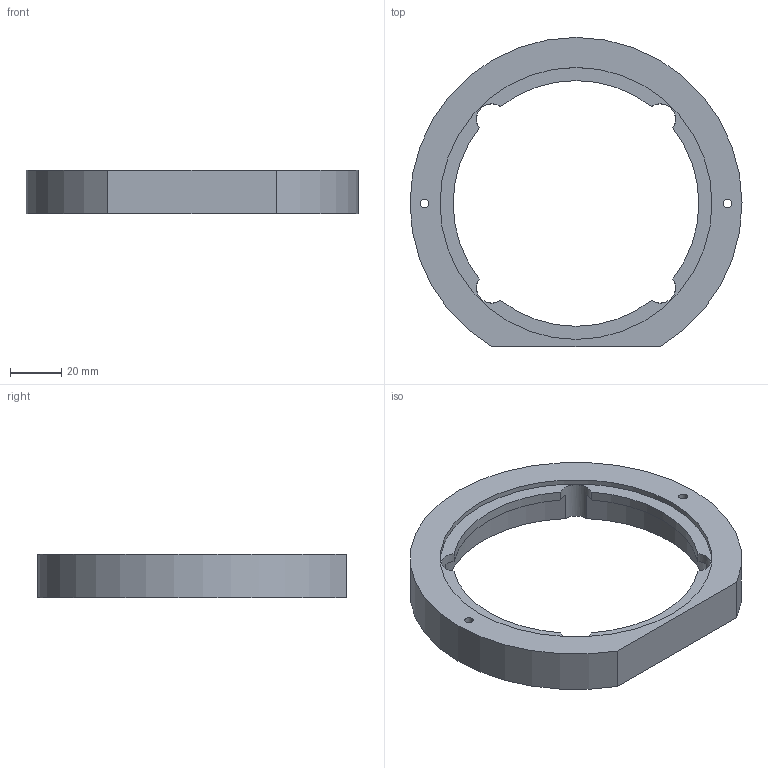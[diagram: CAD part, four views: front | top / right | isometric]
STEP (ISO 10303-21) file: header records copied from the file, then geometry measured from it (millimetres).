
FILE_DESCRIPTION(('Open CASCADE Model'),'2;1');
FILE_NAME('Open CASCADE Shape Model','2026-10-20T19:06:10',('Author'),( 'Open CASCADE'),'Open CASCADE STEP processor 7.9','Open CASCADE 7.9' ,'Unknown');
FILE_SCHEMA(('AUTOMOTIVE_DESIGN { 1 0 10303 214 1 1 1 1 }'));
Length unit declared in the file: millimetre
Products named in the file (1): Open CASCADE STEP translator 7.9 5
Bounding box: 130 x 121 x 17 mm (x, y, z)
Volume: 79903.8 mm3; surface area: 23854.5 mm2
Topology: 1 solids, 1 shells, 32 faces, 75 edges, 50 vertices
Faces by surface type: cylinder 20, plane 12
Full cylindrical faces by diameter (mm): 1.85 x4, 3.3 x2, 106.5 x1
Entity records: 1975 total; most frequent: CARTESIAN_POINT 502, DIRECTION 270, ORIENTED_EDGE 150, PCURVE 150, DEFINITIONAL_REPRESENTATION 150, LINE 85, VECTOR 85, AXIS2_PLACEMENT_3D 81
